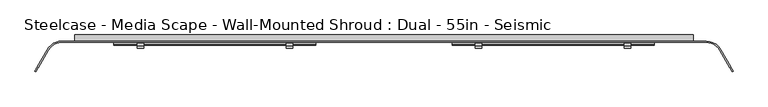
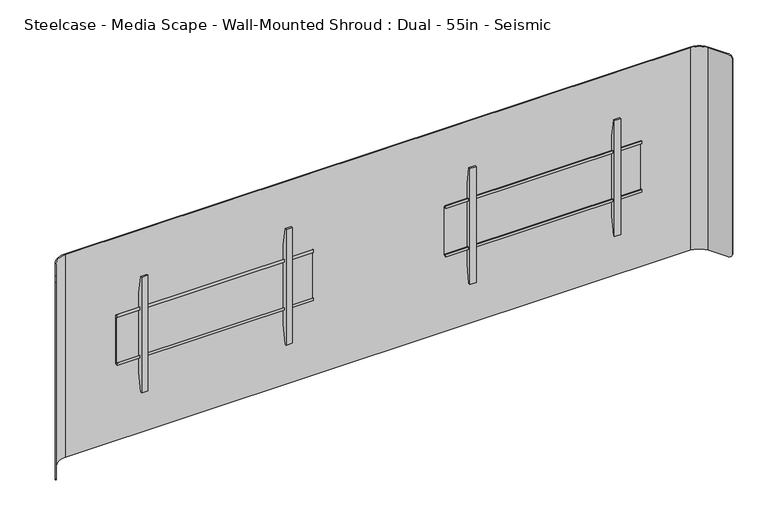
"""IFC4 building model written with IfcOpenShell, lengths in millimetres: furniture geometry, Steelcase - Media Scape - Wall-Mounted Shroud : Dual - 55in - Seismic."""

from ifc_helpers import new_model, si_unit, frame, origin, place, context, project, spatial, polyline, circle_curve, outline, extrude, source, transform, mapped, element, save
from ifc_brep_helpers import plane_surface, cylinder_surface, revolved_surface, advanced_brep


def steelcase_media_scape_wall_mounted_shroud_dual_55in_seismic_f6d9643f(model_context):
    return source(origin(), model_context, "Body", "SolidModel", [
        extrude(outline(polyline([(-42.4942785, 1383.7004726), (-42.4942785, 1395.7145649), (-39.8272175, 1395.7145649), (-39.8272175, 1386.367461), (-29.9720009, 1386.367461), (-29.9720009, 1172.0422438), (-42.3164551, 1172.0422438), (-42.3164551, 1182.9642515), (-39.649394, 1182.9642515), (-39.649394, 1174.707052), (-32.6531824, 1174.707052), (-32.6531824, 1383.7004726), (-42.4942785, 1383.7004726)])), frame((274.574, 0.0, 0.0), z_axis=(1.0, 0.0, 0.0), x_axis=(0.0, 1.0, 0.0)), (0.0, 0.0, 1.0), 812.8),
        extrude(outline(polyline([(-32.6531824, 1454.6471148), (-32.6531824, 1102.8325607), (-46.5049349, 1025.2046949), (-53.3399828, 1025.2046949), (-53.3399828, 1533.2047192), (-46.5050076, 1533.2047192), (-32.6531824, 1454.6471148)])), frame((368.175426, 0.0, 0.0), z_axis=(1.0, 0.0, 0.0), x_axis=(0.0, 1.0, 0.0)), (0.0, 0.0, 1.0), 26.1592872),
        extrude(outline(polyline([(-32.6531824, 1454.6471148), (-32.6531824, 1102.8325607), (-46.5049349, 1025.2046949), (-53.3399828, 1025.2046949), (-53.3399828, 1533.2047192), (-46.5050076, 1533.2047192), (-32.6531824, 1454.6471148)])), frame((967.6132868, 0.0, 0.0), z_axis=(1.0, 0.0, 0.0), x_axis=(0.0, 1.0, 0.0)), (0.0, 0.0, 1.0), 26.1592872),
        extrude(outline(polyline([(-42.4942785, 1383.7004726), (-42.4942785, 1395.7145649), (-39.8272175, 1395.7145649), (-39.8272175, 1386.367461), (-29.9720009, 1386.367461), (-29.9720009, 1172.0422438), (-42.3164551, 1172.0422438), (-42.3164551, 1182.9642515), (-39.649394, 1182.9642515), (-39.649394, 1174.707052), (-32.6531824, 1174.707052), (-32.6531824, 1383.7004726), (-42.4942785, 1383.7004726)])), frame((-1087.374, 0.0, 0.0), z_axis=(1.0, 0.0, 0.0), x_axis=(0.0, 1.0, 0.0)), (0.0, 0.0, 1.0), 812.8),
        extrude(outline(polyline([(-32.6531824, 1454.6471148), (-32.6531824, 1102.8325607), (-46.5049349, 1025.2046949), (-53.3399828, 1025.2046949), (-53.3399828, 1533.2047192), (-46.5050076, 1533.2047192), (-32.6531824, 1454.6471148)])), frame((-394.3347132, 0.0, 0.0), z_axis=(1.0, 0.0, 0.0), x_axis=(0.0, 1.0, 0.0)), (0.0, 0.0, 1.0), 26.1592872),
        extrude(outline(polyline([(-32.6531824, 1454.6471148), (-32.6531824, 1102.8325607), (-46.5049349, 1025.2046949), (-53.3399828, 1025.2046949), (-53.3399828, 1533.2047192), (-46.5050076, 1533.2047192), (-32.6531824, 1454.6471148)])), frame((-993.772574, 0.0, 0.0), z_axis=(1.0, 0.0, 0.0), x_axis=(0.0, 1.0, 0.0)), (0.0, 0.0, 1.0), 26.1592872),
        extrude(outline(polyline([(1244.6, -25.4), (-1244.6, -25.4), (-1244.6, 0.0), (1244.6, 0.0), (1244.6, -25.4)])), frame((0.0, 0.0, 835.914), z_axis=(0.0, 0.0, 1.0), x_axis=(1.0, 0.0, 0.0)), (0.0, 0.0, 1.0), 76.2508167),
        advanced_brep(
        [(-1351.4086135, -61.722, 1724.914), (-1296.416002, -29.9720009, 1724.914), (1296.416, -29.9720009, 1724.914), (1351.4086135, -61.722, 1724.914), (1391.529586, -131.2135628, 1724.914), (1395.4890541, -128.9275628, 1724.914), (1355.3680817, -59.436, 1724.914), (1296.416002, -25.4, 1724.914), (-1296.416, -25.4, 1724.914), (-1355.3680817, -59.436, 1724.914), (-1395.4921659, -128.9329524, 1724.914), (-1391.5326977, -131.2189524, 1724.914), (-1355.3680817, -59.436, 835.914), (-1296.416002, -25.4, 835.914), (1296.416, -25.4, 835.914), (1355.3680817, -59.436, 835.914), (1395.5406629, -129.0169518, 835.914), (1391.5811948, -131.3029518, 835.914), (1351.4086135, -61.722, 835.914), (1296.416002, -29.9720009, 835.914), (-1296.416, -29.9720009, 835.914), (-1351.4086135, -61.722, 835.914), (-1391.5954014, -131.3275584, 835.914), (-1395.5548695, -129.0415584, 835.914), (-1405.0590632, -145.5033047, 849.5242766), (-1405.0590632, -145.5033047, 1710.9227735), (-1401.0995951, -147.7893047, 1710.9227735), (-1401.0995951, -147.7893047, 849.5242766), (1401.0770866, -147.7503189, 849.4756893), (1401.0770866, -147.7503189, 1711.0433849), (1405.0365547, -145.4643189, 1711.0433849), (1405.0365547, -145.4643189, 849.4756893)],
        [
            (0, 1, circle_curve(frame((-1296.416002, -93.4719991, 1724.914), z_axis=(0.0, 0.0, -1.0), x_axis=(0.0, 1.0, 0.0)), 63.4999981)),
            (1, 2),
            (2, 3, circle_curve(frame((1296.416002, -93.4719991, 1724.914), z_axis=(0.0, 0.0, -1.0), x_axis=(0.0, 1.0, 0.0)), 63.4999981)),
            (3, 4),
            (4, 5),
            (5, 6),
            (6, 7, circle_curve(frame((1296.4160004, -93.472, 1724.914), z_axis=(0.0, 0.0, 1.0), x_axis=(0.0, 1.0, 0.0)), 68.072)),
            (7, 8),
            (8, 9, circle_curve(frame((-1296.4160004, -93.472, 1724.914), z_axis=(0.0, 0.0, 1.0), x_axis=(0.0, 1.0, 0.0)), 68.072)),
            (9, 10),
            (10, 11),
            (11, 0),
            (12, 13, circle_curve(frame((-1296.4160004, -93.472, 835.914), z_axis=(0.0, 0.0, -1.0), x_axis=(0.0, 1.0, 0.0)), 68.072)),
            (13, 14),
            (14, 15, circle_curve(frame((1296.4160004, -93.472, 835.914), z_axis=(0.0, 0.0, -1.0), x_axis=(0.0, 1.0, 0.0)), 68.072)),
            (15, 16),
            (16, 17),
            (17, 18),
            (18, 19, circle_curve(frame((1296.416002, -93.4719991, 835.914), z_axis=(0.0, 0.0, 1.0), x_axis=(0.0, 1.0, 0.0)), 63.4999981)),
            (19, 20),
            (20, 21, circle_curve(frame((-1296.416002, -93.4719991, 835.914), z_axis=(0.0, 0.0, 1.0), x_axis=(0.0, 1.0, 0.0)), 63.4999981)),
            (21, 22),
            (22, 23),
            (23, 12),
            (0, 21),
            (20, 1),
            (8, 13),
            (12, 9),
            (23, 24, circle_curve(frame((-1395.5548695, -129.0415584, 855.9928872), z_axis=(-0.8660254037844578, 0.49999999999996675, 0.0), x_axis=(-0.49999999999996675, -0.8660254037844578, 0.0)), 20.0788872)),
            (24, 25),
            (25, 10, circle_curve(frame((-1395.4921659, -128.9329524, 1704.8351128), z_axis=(-0.866025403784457, 0.49999999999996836, 0.0), x_axis=(-0.49999999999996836, -0.866025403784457, 0.0)), 20.0788872)),
            (26, 25),
            (24, 27),
            (27, 26),
            (11, 26, circle_curve(frame((-1391.5326977, -131.2189524, 1704.8351128), z_axis=(0.866025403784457, -0.49999999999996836, 0.0), x_axis=(-0.49999999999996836, -0.866025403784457, 0.0)), 20.0788872)),
            (27, 22, circle_curve(frame((-1391.5954014, -131.3275584, 855.9928872), z_axis=(0.8660254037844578, -0.49999999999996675, 0.0), x_axis=(-0.49999999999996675, -0.8660254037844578, 0.0)), 20.0788872)),
            (7, 14),
            (19, 2),
            (3, 18),
            (17, 28, circle_curve(frame((1391.5811948, -131.3029518, 855.9928872), z_axis=(-0.8660254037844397, -0.49999999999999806, 0.0), x_axis=(0.49999999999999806, -0.8660254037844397, 0.0)), 20.0788872)),
            (28, 29),
            (29, 4, circle_curve(frame((1391.529586, -131.2135628, 1704.8351128), z_axis=(-0.8660254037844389, -0.49999999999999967, 0.0), x_axis=(0.49999999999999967, -0.8660254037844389, 0.0)), 20.0788872)),
            (30, 29),
            (28, 31),
            (31, 30),
            (15, 6),
            (5, 30, circle_curve(frame((1395.4890541, -128.9275628, 1704.8351128), z_axis=(0.8660254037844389, 0.49999999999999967, 0.0), x_axis=(0.49999999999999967, -0.8660254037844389, 0.0)), 20.0788872)),
            (31, 16, circle_curve(frame((1395.5406629, -129.0169518, 855.9928872), z_axis=(0.8660254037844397, 0.49999999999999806, 0.0), x_axis=(0.49999999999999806, -0.8660254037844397, 0.0)), 20.0788872)),
        ],
        [
            plane_surface(frame((-1296.416002, -29.9720009, 1724.914), z_axis=(0.0, 0.0, 1.0), x_axis=(1.0, 0.0, 0.0))),
            plane_surface(frame((-1296.416002, -29.9720009, 835.914), z_axis=(0.0, 0.0, -1.0), x_axis=(-1.0, 0.0, 0.0))),
            revolved_surface(polyline([(-1296.416002, -29.972001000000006, 835.914), (-1296.416002, -29.972001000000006, 1724.914)]), (-1296.416002, -93.4719991, 835.914), (0.0, 0.0, -1.0)),
            cylinder_surface(frame((-1296.4160004, -93.472, 835.914), z_axis=(0.0, 0.0, 1.0), x_axis=(0.0, 1.0, 0.0)), 68.072),
            plane_surface(frame((-1355.3680817, -59.436, 1724.914), z_axis=(-0.866025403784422, 0.5000000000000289, 0.0), x_axis=(0.0, 0.0, -1.0))),
            plane_surface(frame((-1405.0590632, -145.5033047, 1724.914), z_axis=(-0.5000000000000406, -0.8660254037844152, 0.0), x_axis=(0.0, 0.0, -1.0))),
            plane_surface(frame((-1401.0995951, -147.7893047, 1724.914), z_axis=(0.8660254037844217, -0.5000000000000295, 0.0), x_axis=(0.0, 0.0, -1.0))),
            plane_surface(frame((1296.416, -25.4, 1724.914), z_axis=(0.0, 1.0, 0.0), x_axis=(0.0, 0.0, -1.0))),
            plane_surface(frame((-1296.416, -29.9720009, 1724.914), z_axis=(0.0, -1.0, 0.0), x_axis=(0.0, 0.0, -1.0))),
            plane_surface(frame((1351.4086135, -61.722, 1724.914), z_axis=(-0.8660254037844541, -0.4999999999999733, 0.0), x_axis=(0.0, 0.0, -1.0))),
            plane_surface(frame((1401.0770866, -147.7503189, 1724.914), z_axis=(0.4999999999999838, -0.866025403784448, 0.0), x_axis=(0.0, 0.0, -1.0))),
            plane_surface(frame((1405.0365547, -145.4643189, 1724.914), z_axis=(0.8660254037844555, 0.49999999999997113, 0.0), x_axis=(0.0, 0.0, -1.0))),
            cylinder_surface(frame((1296.4160004, -93.472, 835.914), z_axis=(0.0, 0.0, 1.0), x_axis=(0.0, 1.0, 0.0)), 68.072),
            revolved_surface(polyline([(1296.416002, -29.972001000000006, 835.914), (1296.416002, -29.972001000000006, 1724.914)]), (1296.416002, -93.4719991, 835.914), (0.0, 0.0, -1.0)),
            cylinder_surface(frame((-1391.5326977, -131.2189524, 1704.8351128), z_axis=(0.866025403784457, -0.49999999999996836, 0.0), x_axis=(-0.49999999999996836, -0.866025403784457, 0.0)), 20.0788872),
            cylinder_surface(frame((-1391.5954014, -131.3275584, 855.9928872), z_axis=(0.8660254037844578, -0.49999999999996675, 0.0), x_axis=(-0.49999999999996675, -0.8660254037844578, 0.0)), 20.0788872),
            cylinder_surface(frame((1406.6364297, -122.4916225, 1704.8351128), z_axis=(0.8660254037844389, 0.49999999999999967, 0.0), x_axis=(0.49999999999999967, -0.8660254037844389, 0.0)), 20.0788872),
            cylinder_surface(frame((1403.8289695, -124.2316958, 855.9928872), z_axis=(0.8660254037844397, 0.49999999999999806, 0.0), x_axis=(0.49999999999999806, -0.8660254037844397, 0.0)), 20.0788872),
        ],
        [
            (0, [[1, 2, 3, 4, 5, 6, 7, 8, 9, 10, 11, 12]]),
            (1, [[13, 14, 15, 16, 17, 18, 19, 20, 21, 22, 23, 24]]),
            (2, [[-1, 25, -21, 26]]),
            (3, [[-9, 27, -13, 28]]),
            (4, [[-28, -24, 29, 30, 31, -10]]),
            (5, [[32, -30, 33, 34]]),
            (6, [[-25, -12, 35, -34, 36, -22]]),
            (7, [[-8, 37, -14, -27]]),
            (8, [[-2, -26, -20, 38]]),
            (9, [[39, -18, 40, 41, 42, -4]]),
            (10, [[43, -41, 44, 45]]),
            (11, [[46, -6, 47, -45, 48, -16]]),
            (12, [[-7, -46, -15, -37]]),
            (13, [[-3, -38, -19, -39]]),
            (14, [[-11, -31, -32, -35]]),
            (15, [[-23, -36, -33, -29]]),
            (16, [[-5, -42, -43, -47]]),
            (17, [[-17, -48, -44, -40]]),
        ],
    ),
        extrude(outline(polyline([(912.1648167, 1181.0999879), (912.1648167, 1244.6), (1648.714, 1244.6), (1648.714, -1244.6), (912.1648167, -1244.6), (912.1648167, -1182.0933465), (1585.2139516, -1182.0933465), (1585.2139516, 1181.0999879), (912.1648167, 1181.0999879)])), frame((0.0, -25.4, 0.0), z_axis=(0.0, 1.0, 0.0), x_axis=(0.0, 0.0, 1.0)), (0.0, 0.0, 1.0), 25.4),
    ])


if __name__ == "__main__":
    model = new_model("IFC4")
    model_context = context("Model", 3, world=origin())
    ifc_project = project(units=[si_unit("LENGTHUNIT", "METRE", prefix="MILLI")], contexts=[model_context])
    site = spatial("IfcSite", under=ifc_project)
    building = spatial("IfcBuilding", under=site)
    placement = place(None, origin())
    steelcase_media_scape_wall_mounted_shroud_dual_55in_seismic_shape = steelcase_media_scape_wall_mounted_shroud_dual_55in_seismic_f6d9643f(model_context)
    element("IfcFurniture", 1, ObjectType="Steelcase - Media Scape - Wall-Mounted Shroud : Dual - 55in - Seismic", at=placement, inside=building, context=model_context, shape_type="MappedRepresentation", body=[
        mapped(steelcase_media_scape_wall_mounted_shroud_dual_55in_seismic_shape, transform((0.0, 0.0, 0.0), x_axis=(1.0, 0.0, 0.0), y_axis=(0.0, 1.0, 0.0), z_axis=(0.0, 0.0, 1.0))),
    ])
    save(model, "model.ifc")
